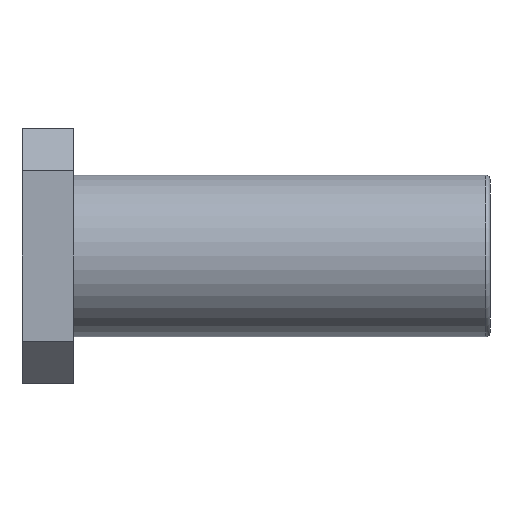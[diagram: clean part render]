
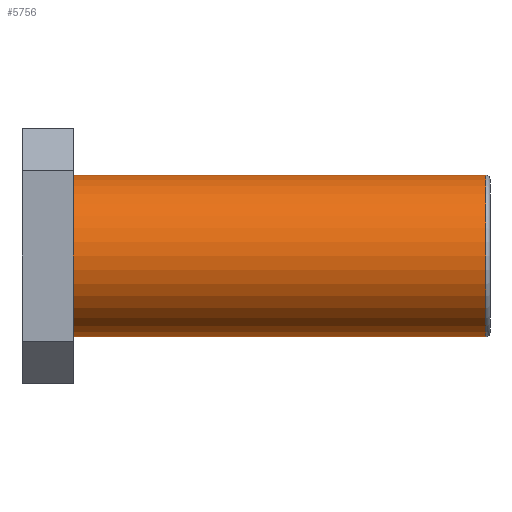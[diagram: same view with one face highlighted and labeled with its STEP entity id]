
A CAD part, left-side view. The second image highlights one B-rep face of the part: STEP entity #5756.
In plain terms, the highlighted cylindrical face has radius 9.5 mm (diameter 19 mm), a partial arc.
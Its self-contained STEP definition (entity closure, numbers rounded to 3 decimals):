
#205 = VERTEX_POINT ( 'NONE', #3516 ) ;
#253 = DIRECTION ( 'NONE',  ( 0., 1., 0. ) ) ;
#398 = ORIENTED_EDGE ( 'NONE', *, *, #2858, .T. ) ;
#491 = EDGE_CURVE ( 'NONE', #6722, #4327, #3842, .T. ) ;
#520 = DIRECTION ( 'NONE',  ( 0., 0., 1. ) ) ;
#651 = ORIENTED_EDGE ( 'NONE', *, *, #2710, .F. ) ;
#709 = FACE_OUTER_BOUND ( 'NONE', #3508, .T. ) ;
#926 = CARTESIAN_POINT ( 'NONE',  ( 0., -49., 9.5 ) ) ;
#1083 = CIRCLE ( 'NONE', #1855, 9.5 ) ;
#1160 = LINE ( 'NONE', #2261, #5155 ) ;
#1855 = AXIS2_PLACEMENT_3D ( 'NONE', #4443, #5570, #520 ) ;
#2024 = DIRECTION ( 'NONE',  ( 0., 0., 1. ) ) ;
#2130 = CARTESIAN_POINT ( 'NONE',  ( 0., -48.5, 0. ) ) ;
#2261 = CARTESIAN_POINT ( 'NONE',  ( 0., -49., -9.5 ) ) ;
#2336 = VECTOR ( 'NONE', #3132, 1000. ) ;
#2569 = CIRCLE ( 'NONE', #4715, 9.5 ) ;
#2571 = CYLINDRICAL_SURFACE ( 'NONE', #4671, 9.5 ) ;
#2686 = DIRECTION ( 'NONE',  ( 0., 1., 0. ) ) ;
#2710 = EDGE_CURVE ( 'NONE', #4018, #4327, #1083, .T. ) ;
#2858 = EDGE_CURVE ( 'NONE', #205, #6722, #2569, .T. ) ;
#3132 = DIRECTION ( 'NONE',  ( 0., 1., 0. ) ) ;
#3508 = EDGE_LOOP ( 'NONE', ( #4245, #398, #7047, #651 ) ) ;
#3516 = CARTESIAN_POINT ( 'NONE',  ( 0., -48.5, -9.5 ) ) ;
#3836 = DIRECTION ( 'NONE',  ( 0., 0., 1. ) ) ;
#3842 = LINE ( 'NONE', #926, #2336 ) ;
#3975 = DIRECTION ( 'NONE',  ( 0., 1., 0. ) ) ;
#4018 = VERTEX_POINT ( 'NONE', #4113 ) ;
#4113 = CARTESIAN_POINT ( 'NONE',  ( 0., 0., -9.5 ) ) ;
#4245 = ORIENTED_EDGE ( 'NONE', *, *, #5001, .F. ) ;
#4327 = VERTEX_POINT ( 'NONE', #6068 ) ;
#4443 = CARTESIAN_POINT ( 'NONE',  ( 0., 0., 0. ) ) ;
#4671 = AXIS2_PLACEMENT_3D ( 'NONE', #4897, #253, #2024 ) ;
#4715 = AXIS2_PLACEMENT_3D ( 'NONE', #2130, #2686, #3836 ) ;
#4770 = CARTESIAN_POINT ( 'NONE',  ( 0., -48.5, 9.5 ) ) ;
#4897 = CARTESIAN_POINT ( 'NONE',  ( 0., -49., 0. ) ) ;
#5001 = EDGE_CURVE ( 'NONE', #205, #4018, #1160, .T. ) ;
#5155 = VECTOR ( 'NONE', #3975, 1000. ) ;
#5570 = DIRECTION ( 'NONE',  ( 0., 1., 0. ) ) ;
#5756 = ADVANCED_FACE ( 'NONE', ( #709 ), #2571, .T. ) ;
#6068 = CARTESIAN_POINT ( 'NONE',  ( 0., 0., 9.5 ) ) ;
#6722 = VERTEX_POINT ( 'NONE', #4770 ) ;
#7047 = ORIENTED_EDGE ( 'NONE', *, *, #491, .T. ) ;
